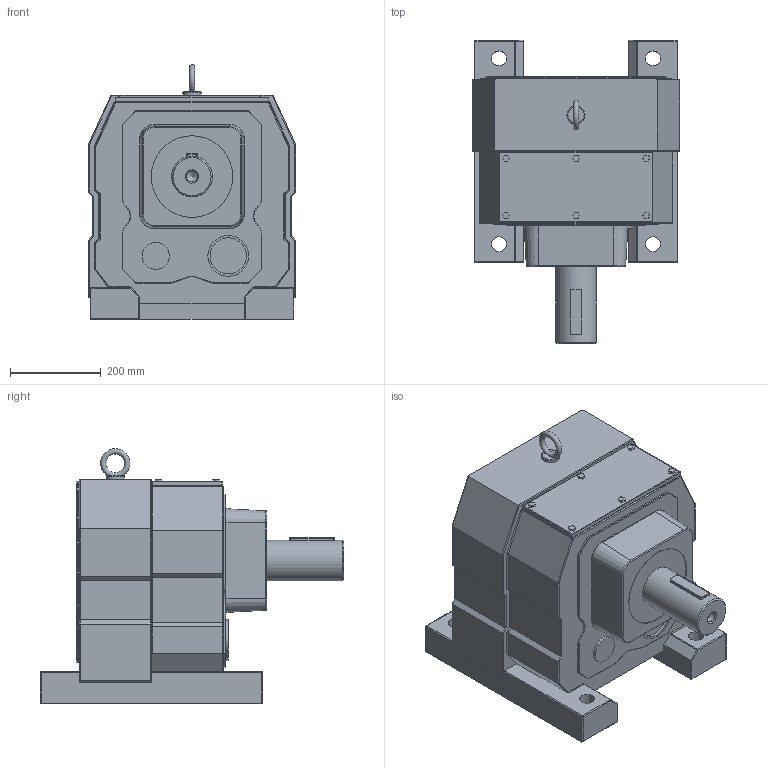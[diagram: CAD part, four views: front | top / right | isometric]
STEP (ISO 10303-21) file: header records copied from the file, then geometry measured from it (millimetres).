
FILE_DESCRIPTION((''),'2;1');
FILE_NAME('D:\PAWEŁ\ZLECENIA\2011 DualSystem\Przekładnie DR\DR130\STEP\DR130.stp','2012-06-11T12:33:31',('admin'),(''),'Autodesk Inventor 2009','Autodesk Inventor 2009','');
FILE_SCHEMA(('AUTOMOTIVE_DESIGN { 1 0 10303 214 1 1 1 1 }'));
Length unit declared in the file: millimetre
Products named in the file (1): DR130
Bounding box: 458 x 670 x 561.95 mm (x, y, z)
Volume: 74697559.5 mm3; surface area: 1441436 mm2
Topology: 2 solids, 2 shells, 470 faces, 1106 edges, 608 vertices
Faces by surface type: cylinder 226, plane 143, sphere 56, bspline 20, torus 19, cone 6
Full cylindrical faces by diameter (mm): 33 x4, 39 x4, 40 x1, 60 x1, 80 x1, 90 x2, 180 x1, 310 x1, 400 x1
Entity records: 14338 total; most frequent: CARTESIAN_POINT 3618, DIRECTION 2347, ORIENTED_EDGE 2046, EDGE_CURVE 1023, AXIS2_PLACEMENT_3D 892, VERTEX_POINT 603, VECTOR 563, LINE 563
